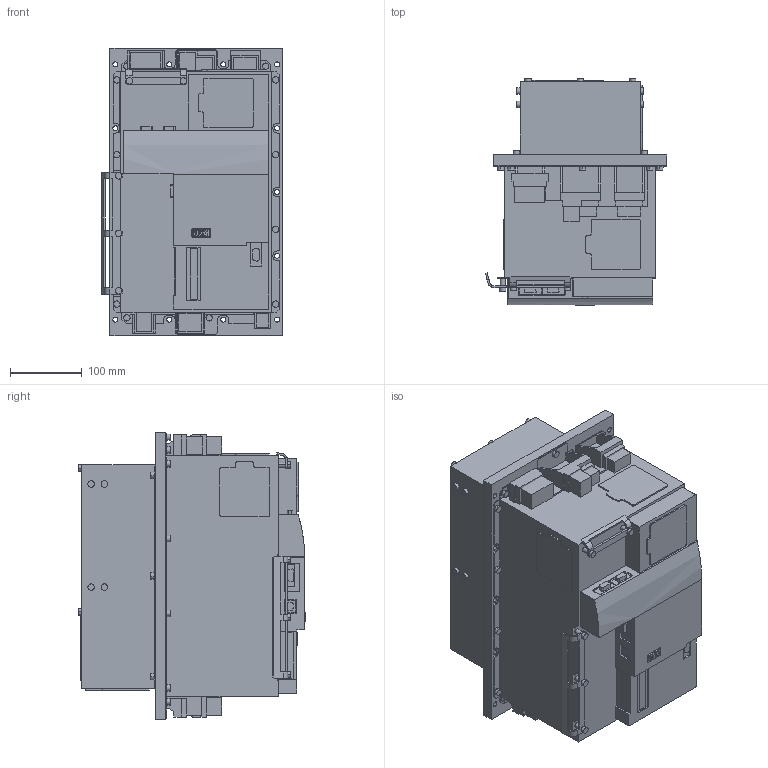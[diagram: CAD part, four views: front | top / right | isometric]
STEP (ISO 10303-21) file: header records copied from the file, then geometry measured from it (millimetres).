
FILE_DESCRIPTION (( 'STEP AP214' ), '1' );
FILE_NAME ('18_19P6 mit CAN Steuerung.STEP', '2020-09-25T09:17:54', ( '' ), ( '' ), 'SwSTEP 2.0', 'SolidWorks 2019', '' );
FILE_SCHEMA (( 'AUTOMOTIVE_DESIGN' ));
Length unit declared in the file: millimetre
Products named in the file (12): 10061067_000_Kundenmodell; 10061131_000_Kundenmodell; 10014308_000; 10061177_000; 10061106_000_Kundenmodell; 10061757_000; 10061712_000; 10060997_000_Kundenmodell; 10061123_000_Kundenmodell; 10061174_000; 18_19P6 mit CAN Steuerung; 10061699_000
Assembly tree (11 placements, depth 3):
  18_19P6 mit CAN Steuerung
    10061067_000_Kundenmodell
      10061712_000
    10061123_000_Kundenmodell
      10061757_000
    10060997_000_Kundenmodell
      10061699_000
    10061106_000_Kundenmodell
      10061174_000
    10061131_000_Kundenmodell
      10014308_000
      10061177_000
Bounding box: 251.83 x 315.93 x 400 mm (x, y, z)
Volume: 19653534.4 mm3; surface area: 1063425.6 mm2
Topology: 12 solids, 15 shells, 1341 faces, 3672 edges, 2424 vertices
Faces by surface type: plane 848, cylinder 432, bspline 44, torus 9, cone 8
Entity records: 45685 total; most frequent: CARTESIAN_POINT 9808, ORIENTED_EDGE 7344, DIRECTION 6926, EDGE_CURVE 3672, LINE 2590, VECTOR 2590, VERTEX_POINT 2424, AXIS2_PLACEMENT_3D 2168
